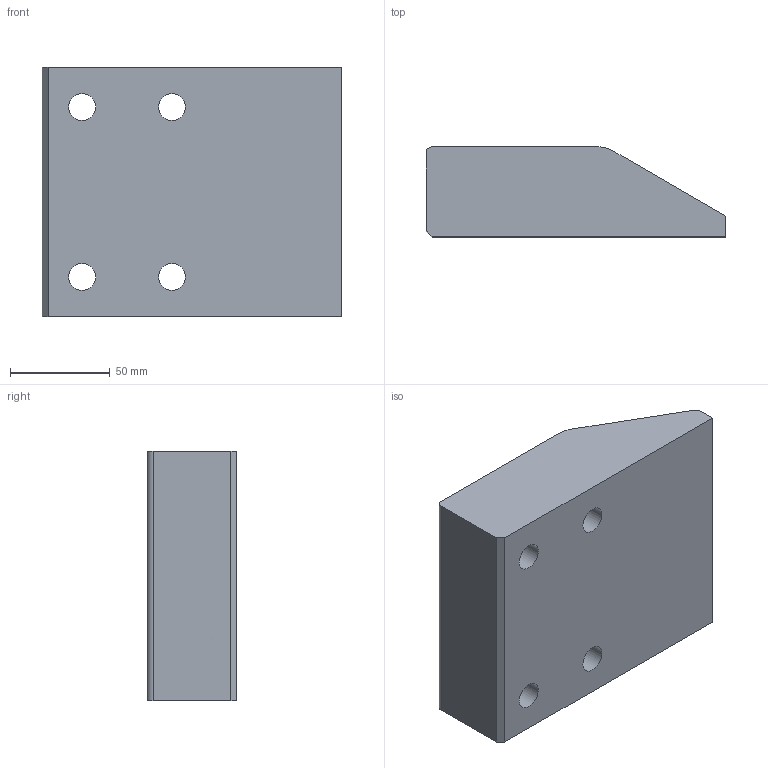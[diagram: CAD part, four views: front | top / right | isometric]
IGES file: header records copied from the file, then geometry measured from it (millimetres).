
Start section: Data from Parasolid IGES Translator 20.0.26, Copyright(c) 2006 Siemens P LM Software. All Rights Reserved.
Global section: file name: G228-01-12515045.igs; native system: By Siemens PLM Incorporated; preprocessor: XPlus GENERIC/IGES 20.0.26; author: Noname; organization: Noname; date: 20190710.094605; units: millimetre
Bounding box: 150 x 45 x 125 mm (x, y, z)
Surface area: 65172.9 mm2 (no closed solid volume)
Topology: 0 solids, 0 shells, 27 faces, 118 edges, 98 vertices
Faces by surface type: revolution 15, extrusion 12
